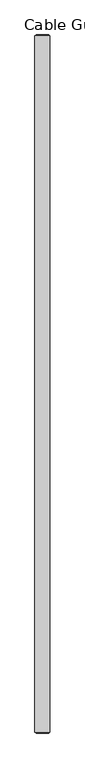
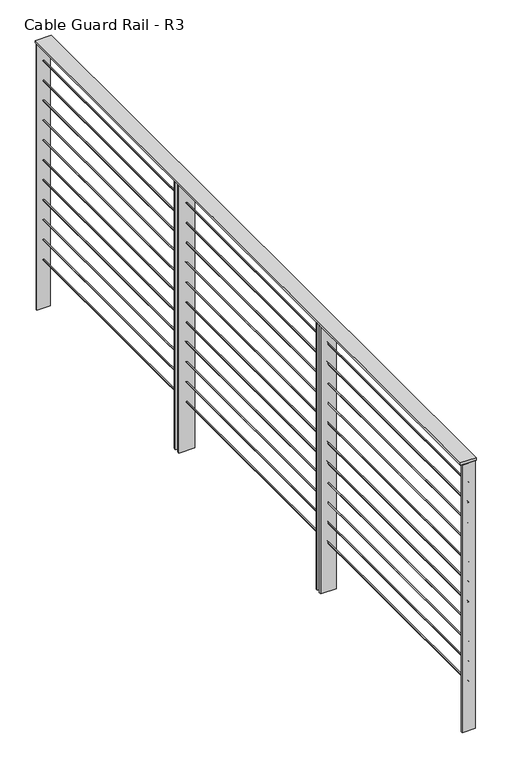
"""IFC4 building model written with IfcOpenShell, lengths in millimetres: railing geometry, Cable Guard Rail - R3."""

from ifc_helpers import new_model, si_unit, point, frame, frame_2d, origin, place, context, project, spatial, polyline, circle_curve, trimmed, segment, composite_curve, outline, extrude, source, transform, mapped, element, save


def cable_guard_rail_r3_4fa281bc(model_context):
    return source(origin(), model_context, "Body", "SweptSolid", [
        extrude(outline(polyline([(25561.9728313, 226423.6909796), (25638.1728313, 226423.6909796), (25638.1728313, 222866.5454803), (25561.9728313, 222866.5454803), (25561.9728313, 226423.6909796)])), frame((0.0, 0.0, 295315.2166667), z_axis=(0.0, 0.0, 1.0), x_axis=(1.0, 0.0, 0.0)), (0.0, 0.0, 1.0), 12.7),
        extrude(outline(composite_curve([segment(trimmed(circle_curve(frame_2d((295213.6166667, 25600.0728313)), 3.175), [point((295213.6166667, 25596.8978313))], [point((295213.6166667, 25603.2478313))], False, "CARTESIAN"), True, "CONTINUOUS"), segment(trimmed(circle_curve(frame_2d((295213.6166667, 25600.0728313)), 3.175), [point((295213.6166667, 25603.2478313))], [point((295213.6166667, 25596.8978313))], False, "CARTESIAN"), True, "CONTINUOUS")], self_intersect=False)), frame((0.0, 222866.5454803, 0.0), z_axis=(0.0, 1.0, 0.0), x_axis=(0.0, 0.0, 1.0)), (0.0, 0.0, 1.0), 3557.1454993),
        extrude(outline(composite_curve([segment(trimmed(circle_curve(frame_2d((295112.0166667, 25600.0728313)), 3.175), [point((295112.0166667, 25596.8978313))], [point((295112.0166667, 25603.2478313))], False, "CARTESIAN"), True, "CONTINUOUS"), segment(trimmed(circle_curve(frame_2d((295112.0166667, 25600.0728313)), 3.175), [point((295112.0166667, 25603.2478313))], [point((295112.0166667, 25596.8978313))], False, "CARTESIAN"), True, "CONTINUOUS")], self_intersect=False)), frame((0.0, 222866.5454803, 0.0), z_axis=(0.0, 1.0, 0.0), x_axis=(0.0, 0.0, 1.0)), (0.0, 0.0, 1.0), 3557.1454993),
        extrude(outline(composite_curve([segment(trimmed(circle_curve(frame_2d((295010.4166667, 25600.0728313)), 3.175), [point((295010.4166667, 25596.8978313))], [point((295010.4166667, 25603.2478313))], False, "CARTESIAN"), True, "CONTINUOUS"), segment(trimmed(circle_curve(frame_2d((295010.4166667, 25600.0728313)), 3.175), [point((295010.4166667, 25603.2478313))], [point((295010.4166667, 25596.8978313))], False, "CARTESIAN"), True, "CONTINUOUS")], self_intersect=False)), frame((0.0, 222866.5454803, 0.0), z_axis=(0.0, 1.0, 0.0), x_axis=(0.0, 0.0, 1.0)), (0.0, 0.0, 1.0), 3557.1454993),
        extrude(outline(composite_curve([segment(trimmed(circle_curve(frame_2d((294908.8166667, 25600.0728313)), 3.175), [point((294908.8166667, 25596.8978313))], [point((294908.8166667, 25603.2478313))], False, "CARTESIAN"), True, "CONTINUOUS"), segment(trimmed(circle_curve(frame_2d((294908.8166667, 25600.0728313)), 3.175), [point((294908.8166667, 25603.2478313))], [point((294908.8166667, 25596.8978313))], False, "CARTESIAN"), True, "CONTINUOUS")], self_intersect=False)), frame((0.0, 222866.5454803, 0.0), z_axis=(0.0, 1.0, 0.0), x_axis=(0.0, 0.0, 1.0)), (0.0, 0.0, 1.0), 3557.1454993),
        extrude(outline(composite_curve([segment(trimmed(circle_curve(frame_2d((294807.2166667, 25600.0728313)), 3.175), [point((294807.2166667, 25596.8978313))], [point((294807.2166667, 25603.2478313))], False, "CARTESIAN"), True, "CONTINUOUS"), segment(trimmed(circle_curve(frame_2d((294807.2166667, 25600.0728313)), 3.175), [point((294807.2166667, 25603.2478313))], [point((294807.2166667, 25596.8978313))], False, "CARTESIAN"), True, "CONTINUOUS")], self_intersect=False)), frame((0.0, 222866.5454803, 0.0), z_axis=(0.0, 1.0, 0.0), x_axis=(0.0, 0.0, 1.0)), (0.0, 0.0, 1.0), 3557.1454993),
        extrude(outline(composite_curve([segment(trimmed(circle_curve(frame_2d((294705.6166667, 25600.0728313)), 3.175), [point((294705.6166667, 25596.8978313))], [point((294705.6166667, 25603.2478313))], False, "CARTESIAN"), True, "CONTINUOUS"), segment(trimmed(circle_curve(frame_2d((294705.6166667, 25600.0728313)), 3.175), [point((294705.6166667, 25603.2478313))], [point((294705.6166667, 25596.8978313))], False, "CARTESIAN"), True, "CONTINUOUS")], self_intersect=False)), frame((0.0, 222866.5454803, 0.0), z_axis=(0.0, 1.0, 0.0), x_axis=(0.0, 0.0, 1.0)), (0.0, 0.0, 1.0), 3557.1454993),
        extrude(outline(composite_curve([segment(trimmed(circle_curve(frame_2d((294604.0166667, 25600.0728313)), 3.175), [point((294604.0166667, 25596.8978313))], [point((294604.0166667, 25603.2478313))], False, "CARTESIAN"), True, "CONTINUOUS"), segment(trimmed(circle_curve(frame_2d((294604.0166667, 25600.0728313)), 3.175), [point((294604.0166667, 25603.2478313))], [point((294604.0166667, 25596.8978313))], False, "CARTESIAN"), True, "CONTINUOUS")], self_intersect=False)), frame((0.0, 222866.5454803, 0.0), z_axis=(0.0, 1.0, 0.0), x_axis=(0.0, 0.0, 1.0)), (0.0, 0.0, 1.0), 3557.1454993),
        extrude(outline(composite_curve([segment(trimmed(circle_curve(frame_2d((294502.4166667, 25600.0728313)), 3.175), [point((294502.4166667, 25596.8978313))], [point((294502.4166667, 25603.2478313))], False, "CARTESIAN"), True, "CONTINUOUS"), segment(trimmed(circle_curve(frame_2d((294502.4166667, 25600.0728313)), 3.175), [point((294502.4166667, 25603.2478313))], [point((294502.4166667, 25596.8978313))], False, "CARTESIAN"), True, "CONTINUOUS")], self_intersect=False)), frame((0.0, 222866.5454803, 0.0), z_axis=(0.0, 1.0, 0.0), x_axis=(0.0, 0.0, 1.0)), (0.0, 0.0, 1.0), 3557.1454993),
        extrude(outline(composite_curve([segment(trimmed(circle_curve(frame_2d((294400.8166667, 25600.0728313)), 3.175), [point((294400.8166667, 25596.8978313))], [point((294400.8166667, 25603.2478313))], False, "CARTESIAN"), True, "CONTINUOUS"), segment(trimmed(circle_curve(frame_2d((294400.8166667, 25600.0728313)), 3.175), [point((294400.8166667, 25603.2478313))], [point((294400.8166667, 25596.8978313))], False, "CARTESIAN"), True, "CONTINUOUS")], self_intersect=False)), frame((0.0, 222866.5454803, 0.0), z_axis=(0.0, 1.0, 0.0), x_axis=(0.0, 0.0, 1.0)), (0.0, 0.0, 1.0), 3557.1454993),
        extrude(outline(composite_curve([segment(trimmed(circle_curve(frame_2d((294299.2166667, 25600.0728313)), 3.175), [point((294299.2166667, 25596.8978313))], [point((294299.2166667, 25603.2478313))], False, "CARTESIAN"), True, "CONTINUOUS"), segment(trimmed(circle_curve(frame_2d((294299.2166667, 25600.0728313)), 3.175), [point((294299.2166667, 25603.2478313))], [point((294299.2166667, 25596.8978313))], False, "CARTESIAN"), True, "CONTINUOUS")], self_intersect=False)), frame((0.0, 222866.5454803, 0.0), z_axis=(0.0, 1.0, 0.0), x_axis=(0.0, 0.0, 1.0)), (0.0, 0.0, 1.0), 3557.1454993),
        extrude(outline(composite_curve([segment(trimmed(circle_curve(frame_2d((294197.6166667, 25600.0728313)), 3.175), [point((294197.6166667, 25596.8978313))], [point((294197.6166667, 25603.2478313))], False, "CARTESIAN"), True, "CONTINUOUS"), segment(trimmed(circle_curve(frame_2d((294197.6166667, 25600.0728313)), 3.175), [point((294197.6166667, 25603.2478313))], [point((294197.6166667, 25596.8978313))], False, "CARTESIAN"), True, "CONTINUOUS")], self_intersect=False)), frame((0.0, 222866.5454803, 0.0), z_axis=(0.0, 1.0, 0.0), x_axis=(0.0, 0.0, 1.0)), (0.0, 0.0, 1.0), 3557.1454993),
        extrude(outline(polyline([(25561.9728313, 224074.4856468), (25638.1728313, 224074.4856468), (25638.1728313, 224064.9606468), (25561.9728313, 224064.9606468), (25561.9728313, 224074.4856468)])), frame((0.0, 0.0, 293949.9666667), z_axis=(0.0, 0.0, 1.0), x_axis=(1.0, 0.0, 0.0)), (0.0, 0.0, 1.0), 1365.25),
        extrude(outline(polyline([(25561.9728313, 224045.9106468), (25638.1728313, 224045.9106468), (25638.1728313, 224036.4338821), (25561.9728313, 224036.4338821), (25561.9728313, 224045.9106468)])), frame((0.0, 0.0, 293949.9666667), z_axis=(0.0, 0.0, 1.0), x_axis=(1.0, 0.0, 0.0)), (0.0, 0.0, 1.0), 1365.25),
        extrude(outline(polyline([(25561.9728313, 225260.2008132), (25638.1728313, 225260.2008132), (25638.1728313, 225250.6758132), (25561.9728313, 225250.6758132), (25561.9728313, 225260.2008132)])), frame((0.0, 0.0, 293949.9666667), z_axis=(0.0, 0.0, 1.0), x_axis=(1.0, 0.0, 0.0)), (0.0, 0.0, 1.0), 1365.25),
        extrude(outline(polyline([(25561.9728313, 225231.6258132), (25638.1728313, 225231.6258132), (25638.1728313, 225222.1490486), (25561.9728313, 225222.1490486), (25561.9728313, 225231.6258132)])), frame((0.0, 0.0, 293949.9666667), z_axis=(0.0, 0.0, 1.0), x_axis=(1.0, 0.0, 0.0)), (0.0, 0.0, 1.0), 1365.25),
        extrude(outline(polyline([(25568.3228313, 222869.7204803), (25631.8228313, 222869.7204803), (25631.8228313, 222863.3704803), (25568.3228313, 222863.3704803), (25568.3228313, 222869.7204803)])), frame((0.0, 0.0, 293949.9666667), z_axis=(0.0, 0.0, 1.0), x_axis=(1.0, 0.0, 0.0)), (0.0, 0.0, 1.0), 1365.25),
        extrude(outline(polyline([(25568.3228313, 226426.8659796), (25631.8228313, 226426.8659796), (25631.8228313, 226420.5159796), (25568.3228313, 226420.5159796), (25568.3228313, 226426.8659796)])), frame((0.0, 0.0, 293949.9666667), z_axis=(0.0, 0.0, 1.0), x_axis=(1.0, 0.0, 0.0)), (0.0, 0.0, 1.0), 1365.25),
    ])


if __name__ == "__main__":
    model = new_model("IFC4")
    model_context = context("Model", 3, world=origin())
    ifc_project = project(units=[si_unit("LENGTHUNIT", "METRE", prefix="MILLI")], contexts=[model_context])
    site = spatial("IfcSite", under=ifc_project)
    building = spatial("IfcBuilding", under=site)
    placement = place(None, origin())
    cable_guard_rail_r3_shape = cable_guard_rail_r3_4fa281bc(model_context)
    element("IfcRailing", 1, ObjectType="Cable Guard Rail - R3", at=placement, inside=building, context=model_context, shape_type="MappedRepresentation", body=[
        mapped(cable_guard_rail_r3_shape, transform((0.0, 0.0, 0.0), x_axis=(1.0, 0.0, 0.0), y_axis=(0.0, 1.0, 0.0), z_axis=(0.0, 0.0, 1.0))),
    ])
    save(model, "model.ifc")
